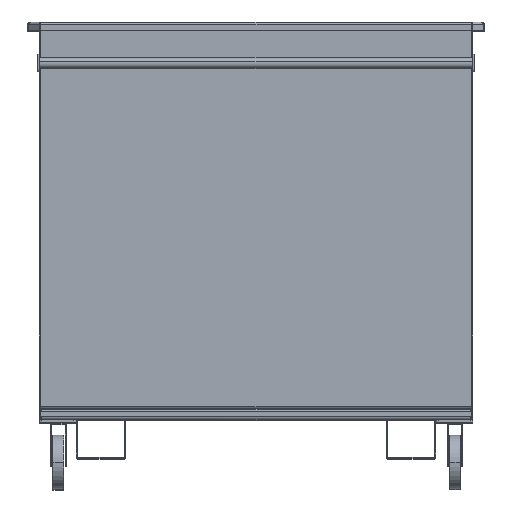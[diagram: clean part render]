
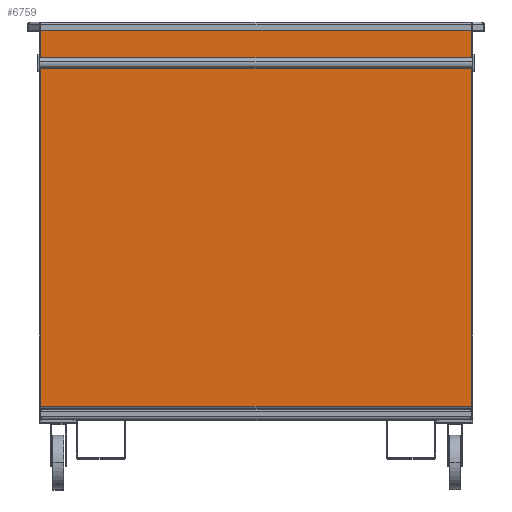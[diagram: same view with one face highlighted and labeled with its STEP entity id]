
A CAD part, top view. The second image highlights one B-rep face of the part: STEP entity #6759.
In plain terms, the highlighted planar face has unit normal (0, 0, 1) as drawn and (0, -1, 0) by its records, which use the part's own axes.
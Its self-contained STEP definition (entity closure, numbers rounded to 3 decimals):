
#54 = VECTOR ( 'NONE', #3440, 1000. ) ;
#615 = VECTOR ( 'NONE', #6039, 1000. ) ;
#813 = CARTESIAN_POINT ( 'NONE',  ( 497., -500., 3. ) ) ;
#1222 = VERTEX_POINT ( 'NONE', #813 ) ;
#1489 = CARTESIAN_POINT ( 'NONE',  ( 0., -500., 0. ) ) ;
#1635 = LINE ( 'NONE', #3508, #5240 ) ;
#1894 = VERTEX_POINT ( 'NONE', #6827 ) ;
#1914 = CARTESIAN_POINT ( 'NONE',  ( -497., -500., 3. ) ) ;
#2136 = DIRECTION ( 'NONE',  ( 0., 1., 0. ) ) ;
#2235 = ORIENTED_EDGE ( 'NONE', *, *, #5673, .F. ) ;
#2238 = CARTESIAN_POINT ( 'NONE',  ( 497., -500., 883. ) ) ;
#2371 = EDGE_LOOP ( 'NONE', ( #2235, #7031, #6237, #4243 ) ) ;
#2431 = LINE ( 'NONE', #6971, #3149 ) ;
#3149 = VECTOR ( 'NONE', #3668, 1000. ) ;
#3440 = DIRECTION ( 'NONE',  ( 0., 0., 1. ) ) ;
#3508 = CARTESIAN_POINT ( 'NONE',  ( -497., -500., 0. ) ) ;
#3668 = DIRECTION ( 'NONE',  ( 1., 0., 0. ) ) ;
#4243 = ORIENTED_EDGE ( 'NONE', *, *, #7882, .T. ) ;
#4746 = DIRECTION ( 'NONE',  ( 0., 0., 1. ) ) ;
#4790 = PLANE ( 'NONE',  #6964 ) ;
#5068 = VERTEX_POINT ( 'NONE', #2238 ) ;
#5240 = VECTOR ( 'NONE', #7965, 1000. ) ;
#5495 = EDGE_CURVE ( 'NONE', #1894, #7673, #1635, .T. ) ;
#5613 = CARTESIAN_POINT ( 'NONE',  ( -497., -500., 3. ) ) ;
#5673 = EDGE_CURVE ( 'NONE', #1894, #5068, #2431, .T. ) ;
#6039 = DIRECTION ( 'NONE',  ( -1., 0., 0. ) ) ;
#6068 = CARTESIAN_POINT ( 'NONE',  ( 497., -500., 0. ) ) ;
#6237 = ORIENTED_EDGE ( 'NONE', *, *, #7518, .F. ) ;
#6759 = ADVANCED_FACE ( 'NONE', ( #7988 ), #4790, .F. ) ;
#6827 = CARTESIAN_POINT ( 'NONE',  ( -497., -500., 883. ) ) ;
#6881 = LINE ( 'NONE', #5613, #615 ) ;
#6964 = AXIS2_PLACEMENT_3D ( 'NONE', #1489, #2136, #4746 ) ;
#6971 = CARTESIAN_POINT ( 'NONE',  ( -497., -500., 883. ) ) ;
#7031 = ORIENTED_EDGE ( 'NONE', *, *, #5495, .T. ) ;
#7426 = LINE ( 'NONE', #6068, #54 ) ;
#7518 = EDGE_CURVE ( 'NONE', #1222, #7673, #6881, .T. ) ;
#7673 = VERTEX_POINT ( 'NONE', #1914 ) ;
#7882 = EDGE_CURVE ( 'NONE', #1222, #5068, #7426, .T. ) ;
#7965 = DIRECTION ( 'NONE',  ( 0., 0., -1. ) ) ;
#7988 = FACE_OUTER_BOUND ( 'NONE', #2371, .T. ) ;
